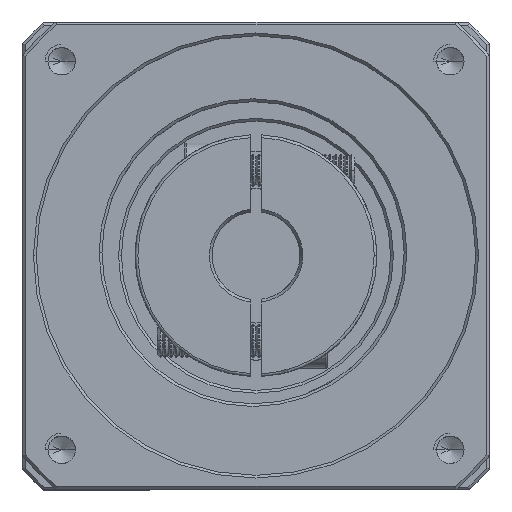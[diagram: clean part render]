
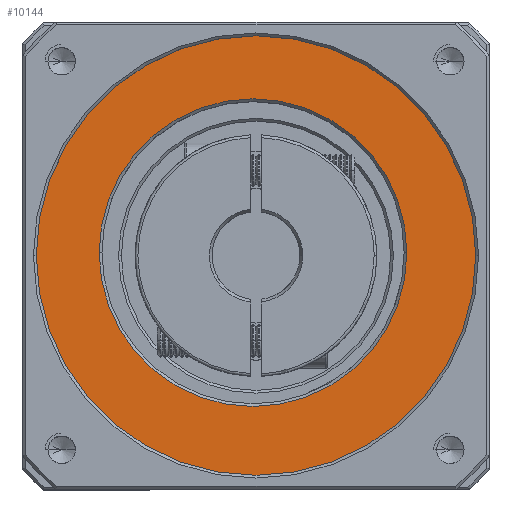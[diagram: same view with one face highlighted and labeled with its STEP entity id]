
A CAD part, top view. The second image highlights one B-rep face of the part: STEP entity #10144.
In plain terms, the highlighted planar face has unit normal (0, 0, 1).
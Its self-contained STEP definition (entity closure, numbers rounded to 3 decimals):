
#753 = CARTESIAN_POINT ( 'NONE',  ( -128.893, 24.356, 6.287 ) ) ;
#1455 = FACE_BOUND ( 'NONE', #112715, .T. ) ;
#4272 = AXIS2_PLACEMENT_3D ( 'NONE', #37066, #99788, #46127 ) ;
#10144 = ADVANCED_FACE ( 'NONE', ( #46378, #1455 ), #86351, .T. ) ;
#14105 = CIRCLE ( 'NONE', #4272, 40. ) ;
#14560 = VERTEX_POINT ( 'NONE', #753 ) ;
#14898 = DIRECTION ( 'NONE',  ( 0., 0., 1. ) ) ;
#23229 = VERTEX_POINT ( 'NONE', #68393 ) ;
#24887 = ORIENTED_EDGE ( 'NONE', *, *, #25099, .T. ) ;
#25099 = EDGE_CURVE ( 'NONE', #32198, #14560, #113389, .T. ) ;
#28168 = DIRECTION ( 'NONE',  ( 0., 0., -1. ) ) ;
#32198 = VERTEX_POINT ( 'NONE', #75143 ) ;
#37066 = CARTESIAN_POINT ( 'NONE',  ( -88.893, 24.356, 6.287 ) ) ;
#37575 = CARTESIAN_POINT ( 'NONE',  ( -61.435, 24.89, 6.287 ) ) ;
#37793 = AXIS2_PLACEMENT_3D ( 'NONE', #68678, #14898, #77698 ) ;
#39959 = AXIS2_PLACEMENT_3D ( 'NONE', #50298, #112961, #59343 ) ;
#42982 = CARTESIAN_POINT ( 'NONE',  ( -89.435, 24.89, 6.287 ) ) ;
#46127 = DIRECTION ( 'NONE',  ( 1., 0., 0. ) ) ;
#46378 = FACE_OUTER_BOUND ( 'NONE', #57097, .T. ) ;
#47178 = ORIENTED_EDGE ( 'NONE', *, *, #59872, .T. ) ;
#50010 = CIRCLE ( 'NONE', #50561, 28. ) ;
#50298 = CARTESIAN_POINT ( 'NONE',  ( -88.893, 24.356, 6.287 ) ) ;
#50561 = AXIS2_PLACEMENT_3D ( 'NONE', #82088, #28168, #90995 ) ;
#51717 = VERTEX_POINT ( 'NONE', #37575 ) ;
#51951 = DIRECTION ( 'NONE',  ( 1., 0., 0. ) ) ;
#55627 = ORIENTED_EDGE ( 'NONE', *, *, #76642, .T. ) ;
#57097 = EDGE_LOOP ( 'NONE', ( #24887, #47178 ) ) ;
#59343 = DIRECTION ( 'NONE',  ( 1., 0., 0. ) ) ;
#59872 = EDGE_CURVE ( 'NONE', #14560, #32198, #14105, .T. ) ;
#68393 = CARTESIAN_POINT ( 'NONE',  ( -117.435, 24.89, 6.287 ) ) ;
#68678 = CARTESIAN_POINT ( 'NONE',  ( -88.893, 24.356, 6.287 ) ) ;
#75143 = CARTESIAN_POINT ( 'NONE',  ( -48.893, 24.356, 6.287 ) ) ;
#76642 = EDGE_CURVE ( 'NONE', #51717, #23229, #106558, .T. ) ;
#77603 = EDGE_CURVE ( 'NONE', #23229, #51717, #50010, .T. ) ;
#77698 = DIRECTION ( 'NONE',  ( 1., 0., 0. ) ) ;
#82088 = CARTESIAN_POINT ( 'NONE',  ( -89.435, 24.89, 6.287 ) ) ;
#86351 = PLANE ( 'NONE',  #37793 ) ;
#90995 = DIRECTION ( 'NONE',  ( 1., 0., 0. ) ) ;
#99788 = DIRECTION ( 'NONE',  ( 0., 0., 1. ) ) ;
#105696 = DIRECTION ( 'NONE',  ( 0., 0., -1. ) ) ;
#106558 = CIRCLE ( 'NONE', #114204, 28. ) ;
#110309 = ORIENTED_EDGE ( 'NONE', *, *, #77603, .T. ) ;
#112715 = EDGE_LOOP ( 'NONE', ( #55627, #110309 ) ) ;
#112961 = DIRECTION ( 'NONE',  ( 0., 0., 1. ) ) ;
#113389 = CIRCLE ( 'NONE', #39959, 40. ) ;
#114204 = AXIS2_PLACEMENT_3D ( 'NONE', #42982, #105696, #51951 ) ;
